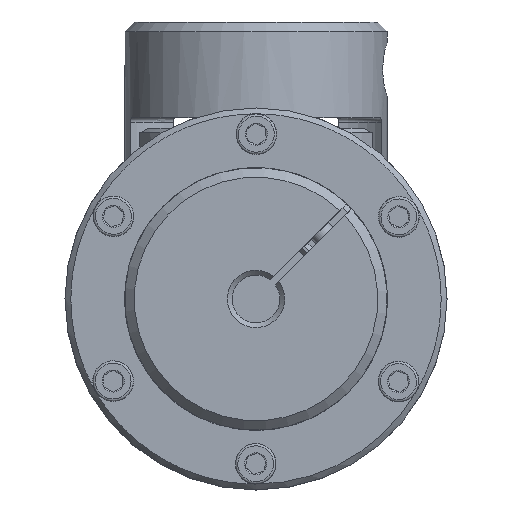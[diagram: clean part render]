
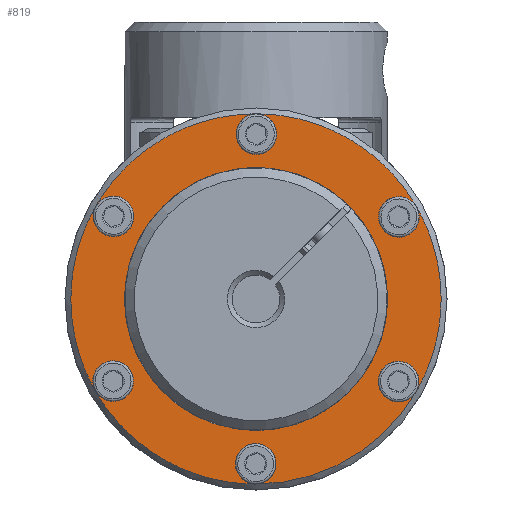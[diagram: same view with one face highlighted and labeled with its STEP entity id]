
A CAD part, left-side view. The second image highlights one B-rep face of the part: STEP entity #819.
In plain terms, the highlighted planar face has unit normal (-1, 0, 0).
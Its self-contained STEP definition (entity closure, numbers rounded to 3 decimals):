
#819 = ADVANCED_FACE( '', ( #1764, #1765 ), #1766, .F. );
#1764 = FACE_OUTER_BOUND( '', #2888, .T. );
#1765 = FACE_BOUND( '', #2889, .T. );
#1766 = PLANE( '', #2890 );
#2888 = EDGE_LOOP( '', ( #4864, #4865, #4866, #4867, #4868, #4869, #4870, #4871, #4872, #4873, #4874, #4875 ) );
#2889 = EDGE_LOOP( '', ( #4876 ) );
#2890 = AXIS2_PLACEMENT_3D( '', #4877, #4878, #4879 );
#4864 = ORIENTED_EDGE( '', *, *, #6803, .T. );
#4865 = ORIENTED_EDGE( '', *, *, #6796, .T. );
#4866 = ORIENTED_EDGE( '', *, *, #6804, .T. );
#4867 = ORIENTED_EDGE( '', *, *, #6795, .T. );
#4868 = ORIENTED_EDGE( '', *, *, #6801, .T. );
#4869 = ORIENTED_EDGE( '', *, *, #6800, .T. );
#4870 = ORIENTED_EDGE( '', *, *, #6805, .T. );
#4871 = ORIENTED_EDGE( '', *, *, #6799, .T. );
#4872 = ORIENTED_EDGE( '', *, *, #6806, .T. );
#4873 = ORIENTED_EDGE( '', *, *, #6798, .T. );
#4874 = ORIENTED_EDGE( '', *, *, #6807, .T. );
#4875 = ORIENTED_EDGE( '', *, *, #6797, .T. );
#4876 = ORIENTED_EDGE( '', *, *, #6808, .F. );
#4877 = CARTESIAN_POINT( '', ( -13.499, 40., 0. ) );
#4878 = DIRECTION( '', ( 1., 0., 0. ) );
#4879 = DIRECTION( '', ( 0., 1., 0. ) );
#6795 = EDGE_CURVE( '', #7956, #7957, #7958, .F. );
#6796 = EDGE_CURVE( '', #7959, #7956, #7960, .F. );
#6797 = EDGE_CURVE( '', #7961, #7959, #7962, .F. );
#6798 = EDGE_CURVE( '', #7963, #7961, #7964, .F. );
#6799 = EDGE_CURVE( '', #7965, #7963, #7966, .F. );
#6800 = EDGE_CURVE( '', #7957, #7965, #7967, .F. );
#6801 = EDGE_CURVE( '', #7957, #7957, #7968, .T. );
#6803 = EDGE_CURVE( '', #7959, #7959, #7971, .T. );
#6804 = EDGE_CURVE( '', #7956, #7956, #7972, .T. );
#6805 = EDGE_CURVE( '', #7965, #7965, #7973, .T. );
#6806 = EDGE_CURVE( '', #7963, #7963, #7974, .T. );
#6807 = EDGE_CURVE( '', #7961, #7961, #7975, .T. );
#6808 = EDGE_CURVE( '', #7976, #7976, #7977, .F. );
#7956 = VERTEX_POINT( '', #10119 );
#7957 = VERTEX_POINT( '', #10120 );
#7958 = CIRCLE( '', #10121, 38.75 );
#7959 = VERTEX_POINT( '', #10122 );
#7960 = CIRCLE( '', #10123, 38.75 );
#7961 = VERTEX_POINT( '', #10124 );
#7962 = CIRCLE( '', #10125, 38.75 );
#7963 = VERTEX_POINT( '', #10126 );
#7964 = CIRCLE( '', #10127, 38.75 );
#7965 = VERTEX_POINT( '', #10128 );
#7966 = CIRCLE( '', #10129, 38.75 );
#7967 = CIRCLE( '', #10130, 38.75 );
#7968 = CIRCLE( '', #10131, 4.25 );
#7971 = CIRCLE( '', #10134, 4.25 );
#7972 = CIRCLE( '', #10135, 4.25 );
#7973 = CIRCLE( '', #10136, 4.25 );
#7974 = CIRCLE( '', #10137, 4.25 );
#7975 = CIRCLE( '', #10138, 4.25 );
#7976 = VERTEX_POINT( '', #10139 );
#7977 = CIRCLE( '', #10140, 27.5 );
#10119 = CARTESIAN_POINT( '', ( -13.499, 33.558, 19.375 ) );
#10120 = CARTESIAN_POINT( '', ( -13.499, 33.558, -19.375 ) );
#10121 = AXIS2_PLACEMENT_3D( '', #11982, #11983, #11984 );
#10122 = CARTESIAN_POINT( '', ( -13.499, 0., 38.75 ) );
#10123 = AXIS2_PLACEMENT_3D( '', #11985, #11986, #11987 );
#10124 = CARTESIAN_POINT( '', ( -13.499, -33.558, 19.375 ) );
#10125 = AXIS2_PLACEMENT_3D( '', #11988, #11989, #11990 );
#10126 = CARTESIAN_POINT( '', ( -13.499, -33.558, -19.375 ) );
#10127 = AXIS2_PLACEMENT_3D( '', #11991, #11992, #11993 );
#10128 = CARTESIAN_POINT( '', ( -13.499, 0., -38.75 ) );
#10129 = AXIS2_PLACEMENT_3D( '', #11994, #11995, #11996 );
#10130 = AXIS2_PLACEMENT_3D( '', #11997, #11998, #11999 );
#10131 = AXIS2_PLACEMENT_3D( '', #12000, #12001, #12002 );
#10134 = AXIS2_PLACEMENT_3D( '', #12006, #12007, #12008 );
#10135 = AXIS2_PLACEMENT_3D( '', #12009, #12010, #12011 );
#10136 = AXIS2_PLACEMENT_3D( '', #12012, #12013, #12014 );
#10137 = AXIS2_PLACEMENT_3D( '', #12015, #12016, #12017 );
#10138 = AXIS2_PLACEMENT_3D( '', #12018, #12019, #12020 );
#10139 = CARTESIAN_POINT( '', ( -13.499, 0., -27.5 ) );
#10140 = AXIS2_PLACEMENT_3D( '', #12021, #12022, #12023 );
#11982 = CARTESIAN_POINT( '', ( -13.499, 0., 0. ) );
#11983 = DIRECTION( '', ( 1., 0., 0. ) );
#11984 = DIRECTION( '', ( 0., 0., -1. ) );
#11985 = CARTESIAN_POINT( '', ( -13.499, 0., 0. ) );
#11986 = DIRECTION( '', ( 1., 0., 0. ) );
#11987 = DIRECTION( '', ( 0., 0., -1. ) );
#11988 = CARTESIAN_POINT( '', ( -13.499, 0., 0. ) );
#11989 = DIRECTION( '', ( 1., 0., 0. ) );
#11990 = DIRECTION( '', ( 0., 0., -1. ) );
#11991 = CARTESIAN_POINT( '', ( -13.499, 0., 0. ) );
#11992 = DIRECTION( '', ( 1., 0., 0. ) );
#11993 = DIRECTION( '', ( 0., 0., -1. ) );
#11994 = CARTESIAN_POINT( '', ( -13.499, 0., 0. ) );
#11995 = DIRECTION( '', ( 1., 0., 0. ) );
#11996 = DIRECTION( '', ( 0., 0., -1. ) );
#11997 = CARTESIAN_POINT( '', ( -13.499, 0., 0. ) );
#11998 = DIRECTION( '', ( 1., 0., 0. ) );
#11999 = DIRECTION( '', ( 0., 0., -1. ) );
#12000 = CARTESIAN_POINT( '', ( -13.499, 29.878, -17.25 ) );
#12001 = DIRECTION( '', ( 1., 0., 0. ) );
#12002 = DIRECTION( '', ( 0., 0., -1. ) );
#12006 = CARTESIAN_POINT( '', ( -13.499, 0., 34.5 ) );
#12007 = DIRECTION( '', ( 1., 0., 0. ) );
#12008 = DIRECTION( '', ( 0., 0., -1. ) );
#12009 = CARTESIAN_POINT( '', ( -13.499, 29.878, 17.25 ) );
#12010 = DIRECTION( '', ( 1., 0., 0. ) );
#12011 = DIRECTION( '', ( 0., 0., -1. ) );
#12012 = CARTESIAN_POINT( '', ( -13.499, 0., -34.5 ) );
#12013 = DIRECTION( '', ( 1., 0., 0. ) );
#12014 = DIRECTION( '', ( 0., 0., -1. ) );
#12015 = CARTESIAN_POINT( '', ( -13.499, -29.878, -17.25 ) );
#12016 = DIRECTION( '', ( 1., 0., 0. ) );
#12017 = DIRECTION( '', ( 0., 0., -1. ) );
#12018 = CARTESIAN_POINT( '', ( -13.499, -29.878, 17.25 ) );
#12019 = DIRECTION( '', ( 1., 0., 0. ) );
#12020 = DIRECTION( '', ( 0., 0., -1. ) );
#12021 = CARTESIAN_POINT( '', ( -13.499, 0., 0. ) );
#12022 = DIRECTION( '', ( 1., 0., 0. ) );
#12023 = DIRECTION( '', ( 0., 0., -1. ) );
